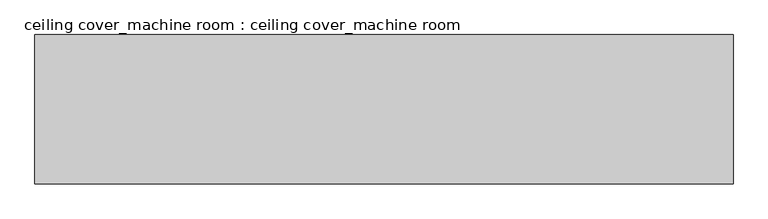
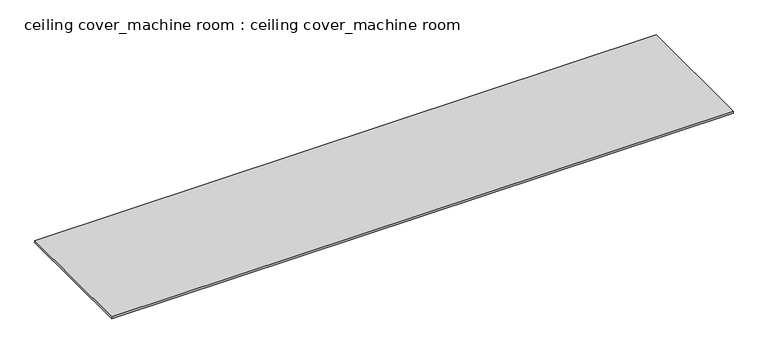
"""IFC4 building model written with IfcOpenShell, lengths in millimetres: proxy geometry, ceiling cover_machine room : ceiling cover_machine room."""

from ifc_helpers import new_model, si_unit, origin, origin_with_axes, place, context, project, spatial, polyline, outline, extrude, source, transform, mapped, element, save


def ceiling_cover_machine_room_ceiling_cover_machine_room_e925b666(model_context):
    return source(origin(), model_context, "Body", "SweptSolid", [
        extrude(outline(polyline([(748.5, 0.0), (748.5, -320.0), (-748.5, -320.0), (-748.5, 0.0), (748.5, 0.0)])), origin_with_axes(), (0.0, 0.0, 1.0), 5.0),
    ])


if __name__ == "__main__":
    model = new_model("IFC4")
    model_context = context("Model", 3, world=origin())
    ifc_project = project(units=[si_unit("LENGTHUNIT", "METRE", prefix="MILLI")], contexts=[model_context])
    site = spatial("IfcSite", under=ifc_project)
    building = spatial("IfcBuilding", under=site)
    placement = place(None, origin())
    ceiling_cover_machine_room_ceiling_cover_machine_room_shape = ceiling_cover_machine_room_ceiling_cover_machine_room_e925b666(model_context)
    element("IfcBuildingElementProxy", 1, Name="ceiling cover_machine room : ceiling cover_machine room", ObjectType="ceiling cover_machine room : ceiling cover_machine room", at=placement, inside=building, context=model_context, shape_type="MappedRepresentation", body=[
        mapped(ceiling_cover_machine_room_ceiling_cover_machine_room_shape, transform((0.0, 0.0, 0.0), x_axis=(1.0, 0.0, 0.0), y_axis=(0.0, 1.0, 0.0), z_axis=(0.0, 0.0, 1.0))),
    ])
    save(model, "model.ifc")
